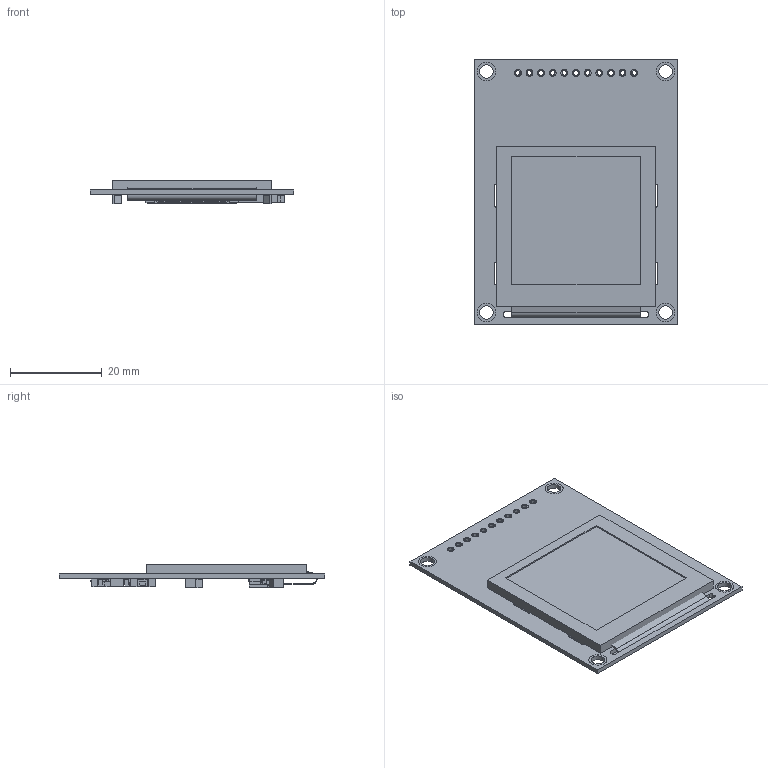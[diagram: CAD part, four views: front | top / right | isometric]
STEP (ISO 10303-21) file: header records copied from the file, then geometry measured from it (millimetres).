
FILE_DESCRIPTION (( 'STEP AP214' ), '1' );
FILE_NAME ('NHD-1.5-128128ASC3.STEP', '2017-08-07T20:23:58', ( '' ), ( '' ), 'SwSTEP 2.0', 'SolidWorks 2017', '' );
FILE_SCHEMA (( 'AUTOMOTIVE_DESIGN' ));
Length unit declared in the file: millimetre
Products named in the file (5): Cabel; FFC; sd card; NHD-1.5-P & D; NHD-1.5-128128ASC3
Assembly tree (4 placements, depth 2):
  NHD-1.5-128128ASC3
    NHD-1.5-P & D
    sd card
    FFC
    Cabel
Bounding box: 44.5 x 58 x 5.1 mm (x, y, z)
Volume: 5268.9 mm3; surface area: 8747.3 mm2
Topology: 20 solids, 20 shells, 2193 faces, 6670 edges, 4409 vertices
Faces by surface type: plane 1703, cylinder 490
Entity records: 77190 total; most frequent: CARTESIAN_POINT 13600, ORIENTED_EDGE 13340, DIRECTION 11843, EDGE_CURVE 6670, VECTOR 5683, LINE 5683, VERTEX_POINT 4409, AXIS2_PLACEMENT_3D 3080
